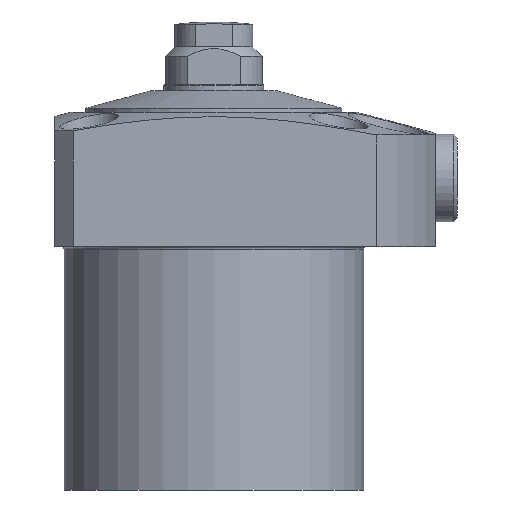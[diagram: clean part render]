
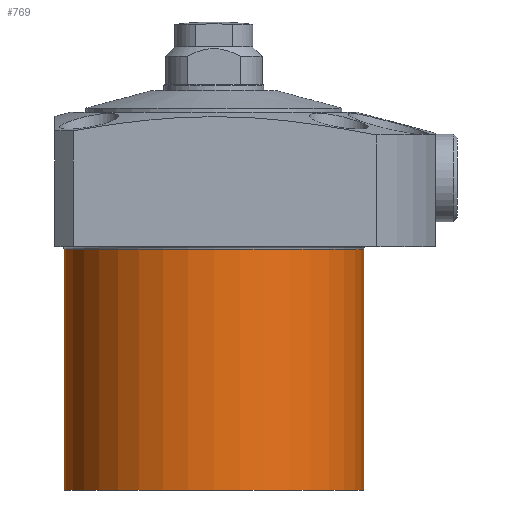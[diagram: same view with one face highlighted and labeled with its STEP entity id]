
A CAD part, front view. The second image highlights one B-rep face of the part: STEP entity #769.
In plain terms, the highlighted cylindrical face has radius 24 mm (diameter 48 mm), a partial arc.
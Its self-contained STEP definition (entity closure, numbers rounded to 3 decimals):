
#699=CYLINDRICAL_SURFACE('',#2522,24.);
#769=ADVANCED_FACE('',(#902),#699,.T.);
#902=FACE_OUTER_BOUND('',#1025,.T.);
#1025=EDGE_LOOP('',(#1579,#1580,#1581,#1582));
#1164=LINE('',#3575,#1289);
#1165=LINE('',#3577,#1290);
#1289=VECTOR('',#2848,1.);
#1290=VECTOR('',#2851,1.);
#1579=ORIENTED_EDGE('',*,*,#2145,.F.);
#1580=ORIENTED_EDGE('',*,*,#2201,.T.);
#1581=ORIENTED_EDGE('',*,*,#2147,.T.);
#1582=ORIENTED_EDGE('',*,*,#2142,.T.);
#1964=VERTEX_POINT('',#3567);
#1965=VERTEX_POINT('',#3569);
#1966=VERTEX_POINT('',#3573);
#1967=VERTEX_POINT('',#3574);
#2142=EDGE_CURVE('',#1965,#1964,#2339,.T.);
#2145=EDGE_CURVE('',#1967,#1964,#1164,.T.);
#2147=EDGE_CURVE('',#1966,#1965,#1165,.T.);
#2201=EDGE_CURVE('',#1967,#1966,#2363,.T.);
#2339=CIRCLE('',#2483,24.);
#2363=CIRCLE('',#2520,24.);
#2483=AXIS2_PLACEMENT_3D('',#3568,#2840,#2841);
#2520=AXIS2_PLACEMENT_3D('',#3801,#2934,#2935);
#2522=AXIS2_PLACEMENT_3D('',#3803,#2938,#2939);
#2840=DIRECTION('',(0.,0.,-1.));
#2841=DIRECTION('',(1.,0.,0.));
#2848=DIRECTION('',(0.,0.,1.));
#2851=DIRECTION('',(0.,0.,1.));
#2934=DIRECTION('',(0.,0.,1.));
#2935=DIRECTION('',(1.,0.,0.));
#2938=DIRECTION('',(0.,0.,1.));
#2939=DIRECTION('',(-1.,0.,0.));
#3567=CARTESIAN_POINT('',(-24.,0.,-0.4));
#3568=CARTESIAN_POINT('',(0.,0.,-0.4));
#3569=CARTESIAN_POINT('',(24.,0.,-0.4));
#3573=CARTESIAN_POINT('',(24.,0.,-39.));
#3574=CARTESIAN_POINT('',(-24.,0.,-39.));
#3575=CARTESIAN_POINT('',(-24.,0.,30.));
#3577=CARTESIAN_POINT('',(24.,0.,30.));
#3801=CARTESIAN_POINT('',(0.,0.,-39.));
#3803=CARTESIAN_POINT('',(0.,0.,30.));
